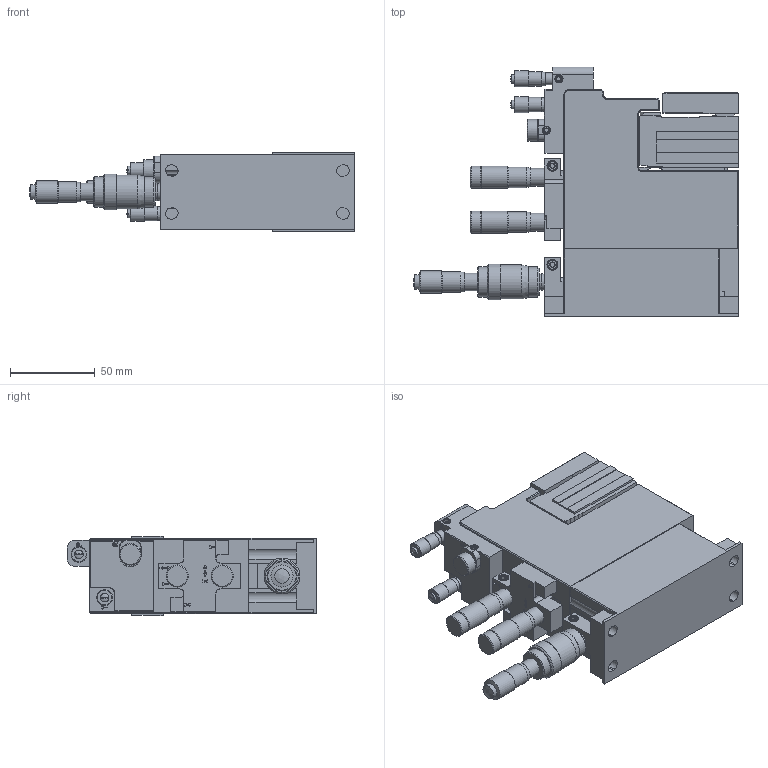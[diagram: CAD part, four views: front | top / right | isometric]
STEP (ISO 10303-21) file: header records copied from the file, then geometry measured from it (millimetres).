
FILE_DESCRIPTION((''),'1');
FILE_NAME('P1-L-H-I','2021-03-23T16:13:25',('JD'),('Luminos'),'Spatial Interop R20 SP1','Kubotek KeyCreator V9.0.3 (16864)',' ');
FILE_SCHEMA(('automotive_design'));
Length unit declared in the file: inch
Products named in the file (2): 1; 2
Bounding box: 191.28 x 147.07 x 46.99 mm (x, y, z)
Volume: 652652.8 mm3; surface area: 89745.6 mm2
Topology: 2 solids, 3 shells, 879 faces, 2065 edges, 1292 vertices
Faces by surface type: plane 528, cylinder 176, cone 170, sphere 5
Full cylindrical faces by diameter (mm): 2.05 x25, 4.039 x3, 4.648 x8, 4.762 x6, 4.775 x2, 5 x3, 5.08 x2, 5.74 x4, 6.35 x3, 7.01 x2, 7.144 x1, 8.509 x2, 8.7 x1, 9.3 x1, 9.322 x2, 9.5 x3, 9.525 x1, 10.49 x2, 10.5 x1, 12.1 x1, 12.116 x2, 12.7 x1, 13 x1, 13.081 x4, 17.7 x2, 20 x1, 21 x1
Entity records: 43694 total; most frequent: CARTESIAN_POINT 4431, DIRECTION 4058, ORIENTED_EDGE 3716, PRESENTATION_STYLE_ASSIGNMENT 3620, COLOUR_RGB 3620, STYLED_ITEM 2739, CURVE_STYLE 2739, DRAUGHTING_PRE_DEFINED_CURVE_FONT 2739
